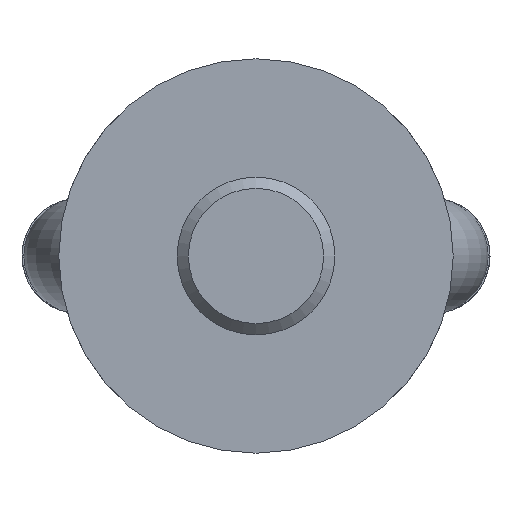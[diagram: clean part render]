
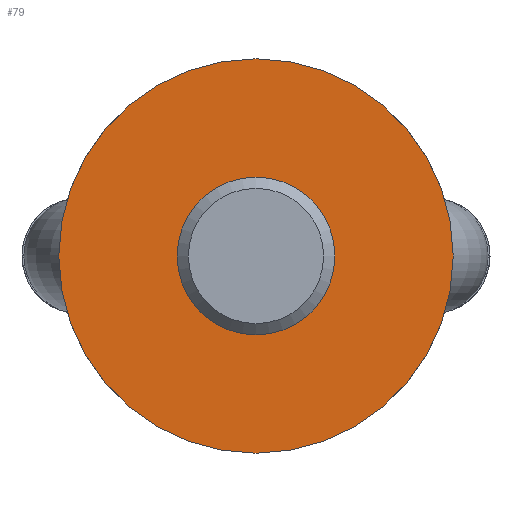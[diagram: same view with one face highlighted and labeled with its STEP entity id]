
A CAD part, front view. The second image highlights one B-rep face of the part: STEP entity #79.
In plain terms, the highlighted planar face has unit normal (0, -1, 0).
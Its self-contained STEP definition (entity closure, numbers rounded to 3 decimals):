
#79 = ADVANCED_FACE( '', ( #115, #116 ), #117, .F. );
#115 = FACE_BOUND( '', #186, .T. );
#116 = FACE_OUTER_BOUND( '', #187, .T. );
#117 = PLANE( '', #188 );
#186 = EDGE_LOOP( '', ( #276 ) );
#187 = EDGE_LOOP( '', ( #277 ) );
#188 = AXIS2_PLACEMENT_3D( '', #278, #279, #280 );
#276 = ORIENTED_EDGE( '', *, *, #464, .T. );
#277 = ORIENTED_EDGE( '', *, *, #465, .T. );
#278 = CARTESIAN_POINT( '', ( 37.5, 0., 0. ) );
#279 = DIRECTION( '', ( 0., 1., 0. ) );
#280 = DIRECTION( '', ( 0., 0., 1. ) );
#464 = EDGE_CURVE( '', #539, #539, #540, .T. );
#465 = EDGE_CURVE( '', #541, #541, #542, .T. );
#539 = VERTEX_POINT( '', #857 );
#540 = CIRCLE( '', #858, 15. );
#541 = VERTEX_POINT( '', #859 );
#542 = CIRCLE( '', #860, 37.5 );
#857 = CARTESIAN_POINT( '', ( 0., 0., 15. ) );
#858 = AXIS2_PLACEMENT_3D( '', #1168, #1169, #1170 );
#859 = CARTESIAN_POINT( '', ( 0., 0., -37.5 ) );
#860 = AXIS2_PLACEMENT_3D( '', #1171, #1172, #1173 );
#1168 = CARTESIAN_POINT( '', ( 0., 0., 0. ) );
#1169 = DIRECTION( '', ( 0., 1., 0. ) );
#1170 = DIRECTION( '', ( 0., 0., 1. ) );
#1171 = CARTESIAN_POINT( '', ( 0., 0., 0. ) );
#1172 = DIRECTION( '', ( 0., -1., 0. ) );
#1173 = DIRECTION( '', ( 0., 0., -1. ) );
